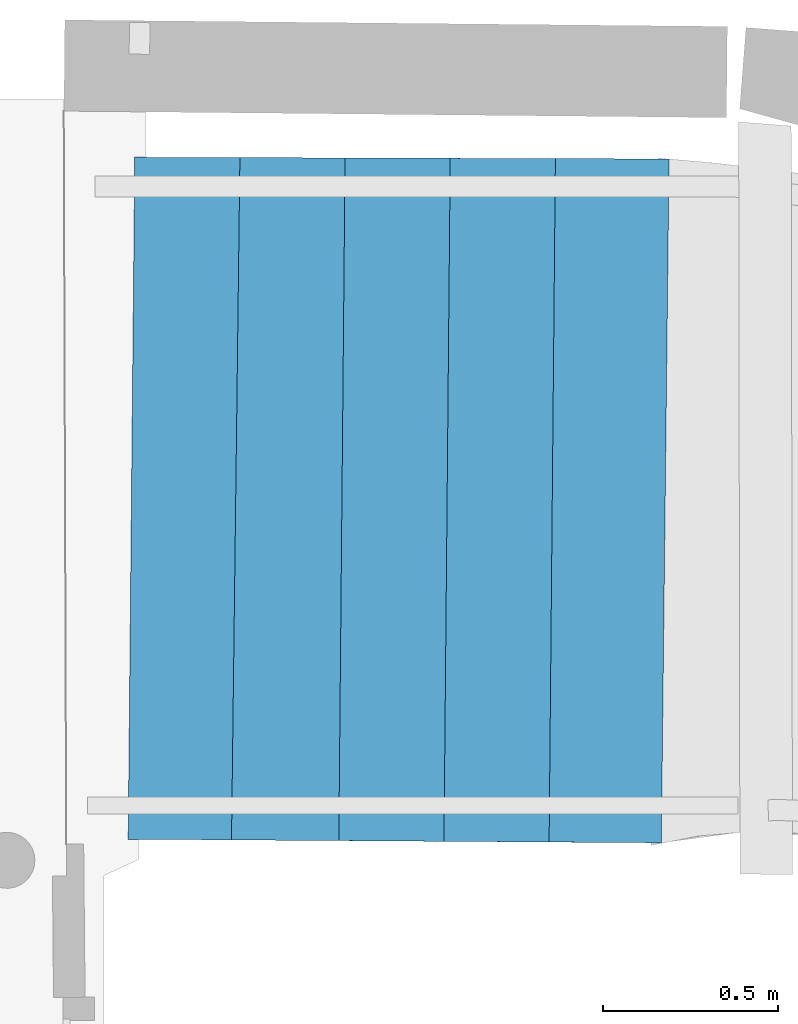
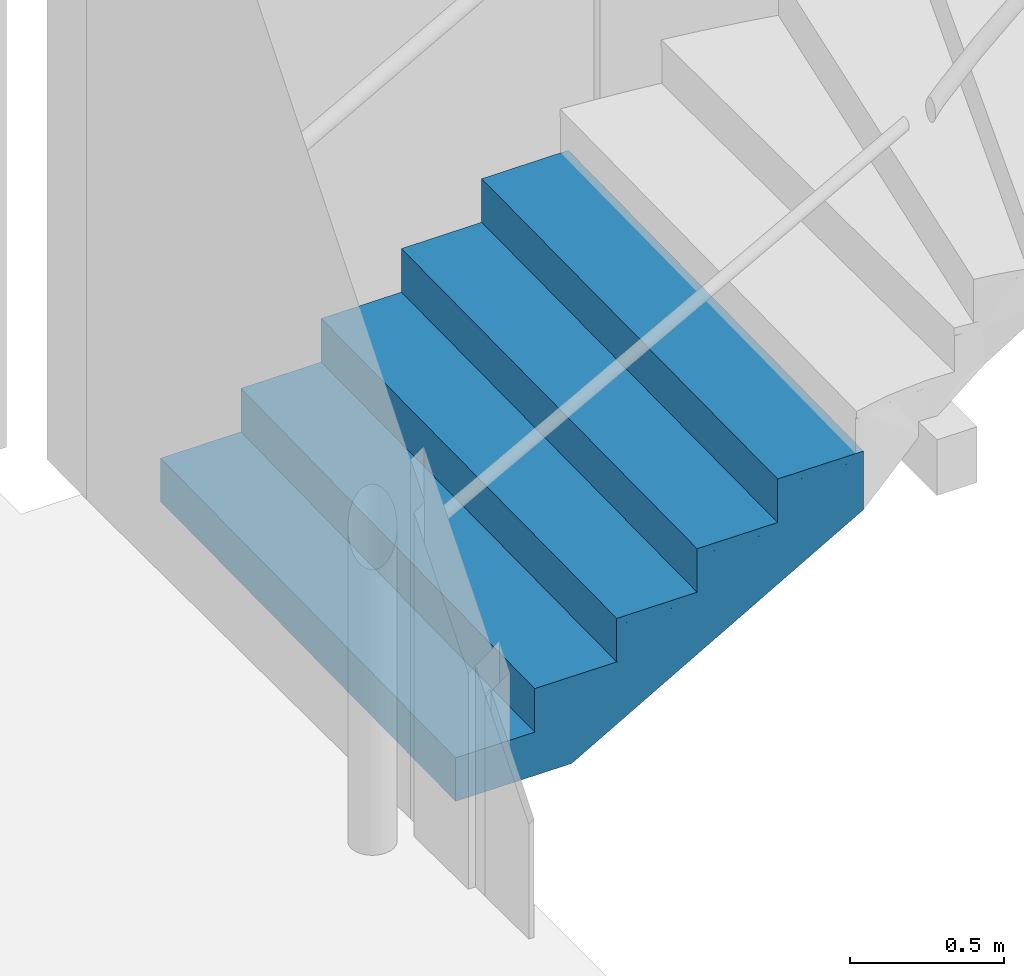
# One storey, part 53 of 66: 1 stair flight, 1 element without a shape of its own.
"""IFC2X3 building model written with IfcOpenShell, lengths in centimetres."""

from ifc_helpers import new_model, entity, si_unit, converted_unit, direction, frame, origin, origin_with_axes, place, context, subcontext, project, spatial, faceted_brep, material, material_list, element, aggregate, save


model = new_model("IFC2X3")

# Units and contexts
model_context = context("Model", 3, precision=0.0001, world=origin(), true_north=direction((0.225632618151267, 0.974212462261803, 0.0)))
body_context = subcontext(model_context, "Body", "Model", "MODEL_VIEW")
ifc_project = project(units=[si_unit("LENGTHUNIT", "METRE", prefix="CENTI"), si_unit("AREAUNIT", "SQUARE_METRE", prefix="CENTI"), si_unit("VOLUMEUNIT", "CUBIC_METRE", prefix="CENTI"), converted_unit("PLANEANGLEUNIT", "DEGREE", entity("IfcRatioMeasure", 0.0174532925), si_unit("PLANEANGLEUNIT", "RADIAN"), dimensions=[0, 0, 0, 0, 0, 0, 0])], contexts=[model_context])

# Site, building, storey
site_placement = place(None, origin_with_axes())
site = spatial("IfcSite", under=ifc_project, at=site_placement, Name="Default Site", CompositionType="ELEMENT")
building_placement = place(site_placement, origin_with_axes())
building = spatial("IfcBuilding", under=site, at=building_placement, Name="Default Building", CompositionType="ELEMENT")
storey_placement = place(building_placement, frame((0.0, 0.0, 477.795358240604), z_axis=(0.0, 0.0, 1.0), x_axis=(1.0, 0.0, 0.0)))
storey = spatial("IfcBuildingStorey", under=building, at=storey_placement, Name="Niveau 1", CompositionType="ELEMENT", Elevation=477.795358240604)

# Stair, stair flight
stair_placement = place(storey_placement, frame((1122.50922468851, -332.022076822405, 0.0), z_axis=(0.0, 0.0, 1.0), x_axis=(1.0, 0.0, 0.0)))
stair = element("IfcStair", 1, at=stair_placement, inside=storey, Name="Escalier 724676", ShapeType="NOTDEFINED")
ifc_material_1 = material(Name="Blanc")
ifc_material_2 = material(Name="Carreau décoré (85)")
ifc_material_list = material_list([ifc_material_1, ifc_material_2])
stair_flight_placement = place(stair_placement, frame((0.937525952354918, 97.2938358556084, 14.2097515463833), z_axis=(0.0, 0.0, 1.0), x_axis=(0.999953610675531, -0.00963205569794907, 0.0)))
stair_flight = element("IfcStairFlight", 2, at=stair_flight_placement, material=ifc_material_list, Name="4294967284", context=body_context, shape_type="Brep", body=[
    faceted_brep([(-3.00001709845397, 4.44089209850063e-14, -14.2097473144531), (0.0, 0.0, -14.2097473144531), (-0.000652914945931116, -194.596693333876, -14.2097473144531), (-3.00067001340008, -194.596693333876, -14.2097473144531), (0.0, 0.0, 0.0), (-3.00001709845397, 4.44089209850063e-14, 0.0), (-3.00067001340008, -194.596693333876, 0.0), (-0.000652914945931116, -194.596693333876, 0.0), (-3.00067011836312, -194.596693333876, -14.2097473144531), (-3.00001699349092, -3.07821919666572e-13, 0.0), (-3.00001709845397, -6.39488453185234e-10, -14.2097473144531), (-1.36323849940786e-19, 6.39532862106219e-10, 0.0), (1.04963220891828e-07, -3.5223143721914e-13, -14.2097473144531), (-0.000653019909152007, -194.596693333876, 0.0), (-0.000652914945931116, -194.596693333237, -14.2097473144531), (-3.00067001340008, -194.596693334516, 0.0)], [[[0, 1, 2]], [[2, 3, 0]], [[4, 5, 6]], [[6, 7, 4]], [[5, 0, 8]], [[3, 6, 9]], [[4, 1, 10]], [[0, 5, 11]], [[7, 2, 12]], [[1, 4, 13]], [[6, 3, 14]], [[2, 7, 15]]]),
    faceted_brep([(27.0005098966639, 0.200665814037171, 3.00002098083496), (30.0005097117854, 0.192559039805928, 3.00002098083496), (29.4753005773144, -194.511902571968, 3.00002098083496), (26.4753007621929, -194.503795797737, 3.00002098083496), (30.0005097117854, 0.192559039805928, 17.2098159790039), (27.0005098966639, 0.200665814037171, 17.2098159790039), (26.4753007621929, -194.503795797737, 17.2098159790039), (29.4753005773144, -194.511902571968, 17.2098159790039), (26.4753008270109, -194.503795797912, 3.00002098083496), (27.0005098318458, 0.200665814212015, 17.2098159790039), (27.0005098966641, 0.200665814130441, 3.00002098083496), (30.0005097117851, 0.192559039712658, 17.2098159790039), (30.0005096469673, 0.192559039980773, 3.00002098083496), (29.4753006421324, -194.511902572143, 17.2098159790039), (29.4753005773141, -194.511902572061, 3.00002098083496), (26.4753007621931, -194.503795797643, 17.2098159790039)], [[[0, 1, 2]], [[2, 3, 0]], [[4, 5, 6]], [[6, 7, 4]], [[5, 0, 8]], [[3, 6, 9]], [[4, 1, 10]], [[0, 5, 11]], [[7, 2, 12]], [[1, 4, 13]], [[6, 3, 14]], [[2, 7, 15]]]),
    faceted_brep([(56.9998708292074, 0.383771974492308, 20.209789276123), (59.9998748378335, 0.385130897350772, 20.209789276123), (60.0877689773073, -194.423841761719, 20.209789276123), (57.0877647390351, -194.425176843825, 20.209789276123), (59.9998748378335, 0.385130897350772, 34.419584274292), (56.9998708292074, 0.383771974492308, 34.419584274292), (57.0877647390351, -194.425176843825, 34.419584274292), (60.0877689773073, -194.423841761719, 34.419584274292), (57.0877646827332, -194.425176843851, 20.209789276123), (56.9998708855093, 0.383771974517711, 34.419584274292), (56.999870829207, 0.383771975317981, 20.209789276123), (59.9998748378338, 0.385130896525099, 34.419584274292), (59.9998747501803, 0.385130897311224, 20.209789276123), (60.0877690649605, -194.423841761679, 34.419584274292), (60.0877689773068, -194.423841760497, 20.209789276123), (57.0877647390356, -194.425176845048, 34.419584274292)], [[[0, 1, 2]], [[2, 3, 0]], [[4, 5, 6]], [[6, 7, 4]], [[5, 0, 8]], [[3, 6, 9]], [[4, 1, 10]], [[0, 5, 11]], [[7, 2, 12]], [[1, 4, 13]], [[6, 3, 14]], [[2, 7, 15]]]),
    faceted_brep([(86.9997127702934, 0.576348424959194, 37.4195575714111), (89.9997167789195, 0.577707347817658, 37.4195575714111), (90.0876808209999, -194.337532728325, 37.4195575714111), (87.0876765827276, -194.338867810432, 37.4195575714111), (89.9997167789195, 0.577707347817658, 51.6293525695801), (86.9997127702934, 0.576348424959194, 51.6293525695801), (87.0876765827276, -194.338867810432, 51.6293525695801), (90.0876808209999, -194.337532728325, 51.6293525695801), (87.0876765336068, -194.338867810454, 37.4195575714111), (86.9997128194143, 0.576348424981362, 51.6293525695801), (86.999712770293, 0.576348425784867, 37.4195575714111), (89.9997167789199, 0.577707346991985, 51.6293525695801), (89.9997166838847, 0.577707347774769, 37.4195575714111), (90.0876809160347, -194.337532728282, 51.6293525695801), (90.0876808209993, -194.337532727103, 37.4195575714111), (87.0876765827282, -194.338867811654, 51.6293525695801)], [[[0, 1, 2]], [[2, 3, 0]], [[4, 5, 6]], [[6, 7, 4]], [[5, 0, 8]], [[3, 6, 9]], [[4, 1, 10]], [[0, 5, 11]], [[7, 2, 12]], [[1, 4, 13]], [[6, 3, 14]], [[2, 7, 15]]]),
    faceted_brep([(116.999650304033, 0.768901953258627, 54.6293258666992), (119.999654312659, 0.770260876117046, 54.6293258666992), (120.0876880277, -194.251222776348, 54.6293258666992), (117.087683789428, -194.252557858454, 54.6293258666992), (119.999654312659, 0.770260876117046, 68.8391208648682), (116.999650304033, 0.768901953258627, 68.8391208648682), (117.087683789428, -194.252557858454, 68.8391208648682), (120.0876880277, -194.251222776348, 68.8391208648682), (117.087683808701, -194.252557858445, 54.6293258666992), (116.999650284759, 0.768901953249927, 68.8391208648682), (116.999650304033, 0.768901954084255, 54.6293258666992), (119.99965431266, 0.770260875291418, 68.8391208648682), (119.999654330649, 0.770260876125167, 54.6293258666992), (120.08768800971, -194.251222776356, 68.8391208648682), (120.087688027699, -194.251222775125, 54.6293258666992), (117.087683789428, -194.252557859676, 68.8391208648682)], [[[0, 1, 2]], [[2, 3, 0]], [[4, 5, 6]], [[6, 7, 4]], [[5, 0, 8]], [[3, 6, 9]], [[4, 1, 10]], [[0, 5, 11]], [[7, 2, 12]], [[1, 4, 13]], [[6, 3, 14]], [[2, 7, 15]]]),
    faceted_brep([(-0.000652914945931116, -194.596693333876, -14.2097473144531), (-0.000652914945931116, -194.596693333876, 0.0), (1.04963220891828e-07, -3.5223143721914e-13, 0.0), (0.0, 0.0, 0.0), (0.0, 0.0, -14.2097473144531), (-0.000653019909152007, -194.596693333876, -14.2097473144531), (29.4753005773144, -194.511902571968, 0.0), (29.4753005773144, -194.511902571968, 17.2098159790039), (30.0005096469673, 0.192559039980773, 17.2098159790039), (30.0005097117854, 0.192559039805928, 17.2098159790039), (30.0005097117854, 0.192559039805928, 0.0), (29.4753006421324, -194.511902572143, 0.0), (60.0877689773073, -194.423841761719, 17.2098159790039), (60.0877689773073, -194.423841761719, 34.419584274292), (59.9998747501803, 0.385130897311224, 34.419584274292), (59.9998748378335, 0.385130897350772, 34.419584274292), (59.9998748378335, 0.385130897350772, 17.2098159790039), (60.0877690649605, -194.423841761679, 17.2098159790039), (90.0876808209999, -194.337532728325, 34.419584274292), (90.0876808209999, -194.337532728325, 51.6293525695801), (89.9997166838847, 0.577707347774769, 51.6293525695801), (89.9997167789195, 0.577707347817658, 51.6293525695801), (89.9997167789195, 0.577707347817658, 34.419584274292), (90.0876809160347, -194.337532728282, 34.419584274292), (120.0876880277, -194.251222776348, 51.6293525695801), (120.0876880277, -194.251222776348, 68.8391208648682), (119.999654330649, 0.770260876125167, 68.8391208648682), (119.999654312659, 0.770260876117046, 68.8391208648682), (119.999654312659, 0.770260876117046, 51.6293525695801), (120.08768800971, -194.251222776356, 51.6293525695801), (149.103293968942, -194.167719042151, 68.8391208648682), (149.42834951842, 0.959171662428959, 68.8391208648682), (149.103293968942, -194.167719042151, 48.5945224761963), (149.428349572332, 0.959171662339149, 48.5945224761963), (149.42834951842, 0.959171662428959, 48.5945224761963), (149.10329391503, -194.167719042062, 68.8391208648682), (40.3654543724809, 0.259090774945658, -14.2097473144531), (40.2771036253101, -194.480813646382, -14.2097473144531), (29.4753005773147, -194.511902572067, -8.35255175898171e-17), (-0.000652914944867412, -194.596693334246, -14.2097473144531), (40.2771036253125, -194.480813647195, -14.2097473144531), (40.2771036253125, -194.480813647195, 17.2098159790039), (29.4753005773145, -194.511902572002, 0.0), (120.087688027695, -194.251222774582, 51.6293525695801), (149.103293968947, -194.167719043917, 68.8391208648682), (60.0877689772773, -194.423841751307, 17.2098159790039), (40.2771036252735, -194.480813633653, -14.2097473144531), (149.103293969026, -194.167719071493, 48.5945224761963), (90.0876808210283, -194.337532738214, 34.419584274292), (149.103293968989, -194.167719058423, 48.5945224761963), (149.103293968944, -194.167719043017, 48.5945224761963), (120.087688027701, -194.251222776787, 51.6293525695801), (90.0876808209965, -194.337532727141, 34.419584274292), (40.2771036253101, -194.480813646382, 17.2098159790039), (60.0877689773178, -194.42384176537, 17.2098159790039), (40.3654543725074, 0.259090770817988, -14.2097473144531), (-8.49906373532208e-12, 1.32414580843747e-09, 3.79491528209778e-16), (30.0005097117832, 0.192559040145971, 9.74538602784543e-17), (30.0005097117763, 0.192559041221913, 0.0), (40.3654543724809, 0.259090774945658, 17.2098159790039), (30.0005097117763, 0.192559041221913, -3.5843861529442e-28), (30.0005097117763, 0.192559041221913, 17.2098159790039), (59.9998748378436, 0.385130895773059, 17.2098159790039), (149.428349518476, 0.959171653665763, 48.5945224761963), (40.3654543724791, 0.259090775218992, -14.2097473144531), (40.3654543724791, 0.259090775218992, 17.2098159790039), (59.9998748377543, 0.385130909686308, 17.2098159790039), (89.9997167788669, 0.577707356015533, 34.419584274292), (59.9998748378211, 0.385130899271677, 17.2098159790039), (59.9998748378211, 0.385130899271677, 34.419584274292), (89.9997167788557, 0.577707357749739, 34.419584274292), (89.9997167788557, 0.577707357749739, 51.6293525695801), (89.9997167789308, 0.577707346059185, 51.6293525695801), (119.999654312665, 0.770260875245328, 51.6293525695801), (119.999654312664, 0.770260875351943, 51.6293525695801), (119.999654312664, 0.770260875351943, 68.8391208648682), (149.10329419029, -194.167719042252, 48.5945220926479), (40.2771036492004, -194.480813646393, -14.2097473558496), (149.103293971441, -194.167719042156, 48.5945224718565), (40.3654554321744, 0.259090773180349, -14.2097491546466)], [[[0, 1, 2]], [[3, 4, 5]], [[6, 7, 8]], [[9, 10, 11]], [[12, 13, 14]], [[15, 16, 17]], [[18, 19, 20]], [[21, 22, 23]], [[24, 25, 26]], [[27, 28, 29]], [[3, 1, 6]], [[6, 10, 3]], [[9, 7, 12]], [[12, 16, 9]], [[15, 13, 18]], [[18, 22, 15]], [[21, 19, 24]], [[24, 28, 21]], [[27, 25, 30]], [[30, 31, 27]], [[30, 32, 33]], [[34, 31, 35]], [[4, 36, 37]], [[37, 0, 4]], [[37, 38, 39]], [[6, 40, 41]], [[6, 41, 7]], [[1, 0, 42]], [[30, 43, 32]], [[24, 44, 25]], [[32, 45, 46]], [[12, 47, 48]], [[18, 49, 19]], [[19, 50, 51]], [[13, 12, 52]], [[53, 37, 54]], [[3, 55, 4]], [[36, 56, 57]], [[36, 58, 59]], [[59, 60, 61]], [[36, 62, 63]], [[16, 64, 65]], [[34, 66, 67]], [[22, 68, 69]], [[34, 70, 71]], [[34, 72, 73]], [[34, 74, 31]], [[31, 74, 75]], [[36, 76, 77]], [[34, 78, 79]]]),
    faceted_brep([(-3.0000222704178, -0.0192651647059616, 3.00002098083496), (-3.00068224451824, -194.605324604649, 3.00002098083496), (29.4753005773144, -194.511902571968, 3.00002098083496), (30.0005097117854, 0.192559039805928, 3.00002098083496), (29.4753005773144, -194.511902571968, 0.0), (-3.00068224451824, -194.605324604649, 0.0), (-3.0000222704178, -0.0192651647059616, 0.0), (30.0005097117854, 0.192559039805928, 0.0), (-3.00002219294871, -0.0192651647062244, 3.00002098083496), (-3.00068232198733, -194.605324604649, 0.0), (-3.00068224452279, -194.605324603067, 3.00002098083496), (29.4753005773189, -194.511902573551, 0.0), (29.4753006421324, -194.511902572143, 3.00002098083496), (30.0005096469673, 0.192559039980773, 0.0), (30.0005097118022, 0.192559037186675, 3.00002098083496), (-3.00002227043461, -0.0192651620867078, 0.0)], [[[0, 1, 2]], [[2, 3, 0]], [[4, 5, 6]], [[6, 7, 4]], [[5, 1, 8]], [[0, 6, 9]], [[4, 2, 10]], [[1, 5, 11]], [[7, 3, 12]], [[2, 4, 13]], [[6, 0, 14]], [[3, 7, 15]]]),
    faceted_brep([(27.0003918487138, 0.17331679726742, 20.209789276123), (26.4752712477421, -194.520533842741, 20.209789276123), (60.0877689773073, -194.423841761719, 20.209789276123), (59.9998748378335, 0.385130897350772, 20.209789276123), (60.0877689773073, -194.423841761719, 17.2098159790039), (26.4752712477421, -194.520533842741, 17.2098159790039), (27.0003918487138, 0.17331679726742, 17.2098159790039), (59.9998748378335, 0.385130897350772, 17.2098159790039), (27.0003918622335, 0.173316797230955, 20.209789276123), (26.4752712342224, -194.520533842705, 17.2098159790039), (26.4752712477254, -194.520533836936, 20.209789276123), (60.087768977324, -194.423841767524, 17.2098159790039), (60.0877690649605, -194.423841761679, 20.209789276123), (59.9998747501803, 0.385130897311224, 17.2098159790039), (59.9998748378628, 0.385130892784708, 20.209789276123), (27.0003918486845, 0.173316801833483, 17.2098159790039)], [[[0, 1, 2]], [[2, 3, 0]], [[4, 5, 6]], [[6, 7, 4]], [[5, 1, 8]], [[0, 6, 9]], [[4, 2, 10]], [[1, 5, 11]], [[7, 3, 12]], [[2, 4, 13]], [[6, 0, 14]], [[3, 7, 15]]]),
    faceted_brep([(56.9998525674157, 0.365865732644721, 37.4195575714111), (57.0877647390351, -194.425176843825, 37.4195575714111), (90.0876808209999, -194.337532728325, 37.4195575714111), (89.9997167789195, 0.577707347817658, 37.4195575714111), (90.0876808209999, -194.337532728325, 34.419584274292), (57.0877647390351, -194.425176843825, 34.419584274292), (56.9998525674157, 0.365865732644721, 34.419584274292), (89.9997167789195, 0.577707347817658, 34.419584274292), (56.999852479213, 0.365865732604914, 37.4195575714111), (57.0877648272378, -194.425176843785, 34.419584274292), (57.0877647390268, -194.425176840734, 37.4195575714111), (90.0876808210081, -194.337532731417, 34.419584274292), (90.0876809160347, -194.337532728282, 37.4195575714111), (89.9997166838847, 0.577707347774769, 34.419584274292), (89.9997167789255, 0.577707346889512, 37.4195575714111), (56.9998525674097, 0.365865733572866, 34.419584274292)], [[[0, 1, 2]], [[2, 3, 0]], [[4, 5, 6]], [[6, 7, 4]], [[5, 1, 8]], [[0, 6, 9]], [[4, 2, 10]], [[1, 5, 11]], [[7, 3, 12]], [[2, 4, 13]], [[6, 0, 14]], [[3, 7, 15]]]),
    faceted_brep([(86.9997898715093, 0.558443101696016, 54.6293258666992), (87.0876765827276, -194.338867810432, 54.6293258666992), (120.0876880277, -194.251222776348, 54.6293258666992), (119.999654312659, 0.770260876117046, 54.6293258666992), (120.0876880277, -194.251222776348, 51.6293525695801), (87.0876765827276, -194.338867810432, 51.6293525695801), (86.9997898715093, 0.558443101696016, 51.6293525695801), (119.999654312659, 0.770260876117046, 51.6293525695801), (86.9997898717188, 0.55844310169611, 54.6293258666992), (87.0876765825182, -194.338867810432, 51.6293525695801), (87.0876765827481, -194.338867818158, 54.6293258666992), (120.087688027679, -194.251222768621, 51.6293525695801), (120.08768800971, -194.251222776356, 54.6293258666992), (119.999654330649, 0.770260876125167, 51.6293525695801), (119.999654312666, 0.770260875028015, 54.6293258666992), (86.9997898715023, 0.558443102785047, 51.6293525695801)], [[[0, 1, 2]], [[2, 3, 0]], [[4, 5, 6]], [[6, 7, 4]], [[5, 1, 8]], [[0, 6, 9]], [[4, 2, 10]], [[1, 5, 11]], [[7, 3, 12]], [[2, 4, 13]], [[6, 0, 14]], [[3, 7, 15]]]),
    faceted_brep([(116.999631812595, 0.751019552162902, 71.8391418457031), (117.087683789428, -194.252557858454, 71.8391418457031), (149.103293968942, -194.167719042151, 71.8391418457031), (149.42834951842, 0.959171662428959, 71.8391418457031), (149.103293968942, -194.167719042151, 68.8391208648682), (117.087683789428, -194.252557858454, 68.8391208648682), (116.999631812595, 0.751019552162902, 68.8391208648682), (149.42834951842, 0.959171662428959, 68.8391208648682), (116.999631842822, 0.75101955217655, 71.8391418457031), (117.087683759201, -194.252557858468, 68.8391208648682), (117.087683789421, -194.252557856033, 71.8391418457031), (149.103293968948, -194.167719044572, 68.8391208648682), (149.10329391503, -194.167719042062, 71.8391418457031), (149.428349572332, 0.959171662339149, 68.8391208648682), (149.428349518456, 0.959171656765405, 71.8391418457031), (116.999631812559, 0.751019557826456, 68.8391208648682)], [[[0, 1, 2]], [[2, 3, 0]], [[4, 5, 6]], [[6, 7, 4]], [[5, 1, 8]], [[0, 6, 9]], [[4, 2, 10]], [[1, 5, 11]], [[7, 3, 12]], [[2, 4, 13]], [[6, 0, 14]], [[3, 7, 15]]]),
])
aggregate(stair, [stair_flight])

save(model, "model.ifc")
